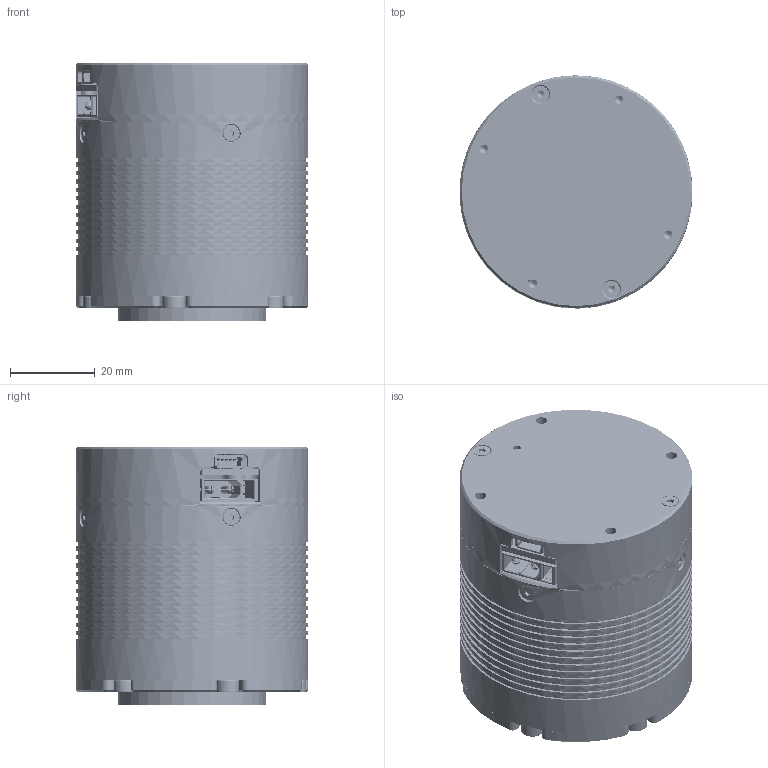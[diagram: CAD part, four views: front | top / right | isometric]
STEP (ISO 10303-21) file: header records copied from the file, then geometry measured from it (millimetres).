
FILE_DESCRIPTION (( 'STEP AP203' ), '1' );
FILE_NAME ('RMD-X4-P36-36-E-L 外形图.STEP', '2026-09-20T03:25:12', ( '微软用户' ), ( '微软中国' ), 'SwSTEP 2.0', 'SolidWorks 2020', '' );
FILE_SCHEMA (( 'CONFIG_CONTROL_DESIGN' ));
Length unit declared in the file: millimetre
Products named in the file (15): X4____-________.STEP.STEP; 56ZWCO60LEG36-3_0_0-01.STEP.STEP; X4-L ______-0.STEP; RMD-X4-P36-36-E-L 俋倛芞; 122ZWCO64LE-2_0_0-11.STEP.STEP; 44PH36-13L-5-0-03.STEP.STEP; 56ZWCO60LEG36-3_0_0-02.STEP.STEP; 44PH36-13L-3-0-00MC_ASM.STEP.STEP; GBT70_1_M3X12-O.STEP.STEP; 44PH36-13L-5-0-00_ASM.STEP.STEP; 8MT.013.210-________ A0.STEP.STEP; X4-L ______.STEP; XMT.105.011_Default________.STEP.STEP; OEM-X4-P36-27 ______.STEP.STEP; M2X14.STEP.STEP
Assembly tree (25 placements, depth 4):
  RMD-X4-P36-36-E-L 俋倛芞
    44PH36-13L-3-0-00MC_ASM.STEP.STEP
      44PH36-13L-5-0-00_ASM.STEP.STEP
        44PH36-13L-5-0-03.STEP.STEP
    OEM-X4-P36-27 ______.STEP.STEP
      XMT.105.011_Default________.STEP.STEP
    56ZWCO60LEG36-3_0_0-02.STEP.STEP
    56ZWCO60LEG36-3_0_0-01.STEP.STEP
    GBT70_1_M3X12-O.STEP.STEP  x6
    122ZWCO64LE-2_0_0-11.STEP.STEP  x6
    M2X14.STEP.STEP  x2
    8MT.013.210-________ A0.STEP.STEP
    X4____-________.STEP.STEP
    X4-L ______.STEP
    X4-L ______-0.STEP
Bounding box: 55 x 55 x 61 mm (x, y, z)
Volume: 20536.6 mm3; surface area: 53740.8 mm2
Topology: 43 solids, 71 shells, 4147 faces, 11239 edges, 7291 vertices
Faces by surface type: cylinder 1728, plane 1537, bspline 646, cone 205, sphere 16, torus 15
Entity records: 135598 total; most frequent: CARTESIAN_POINT 46852, ORIENTED_EDGE 18972, DIRECTION 15939, EDGE_CURVE 9514, VERTEX_POINT 6213, AXIS2_PLACEMENT_3D 5554, LINE 4831, VECTOR 4831
